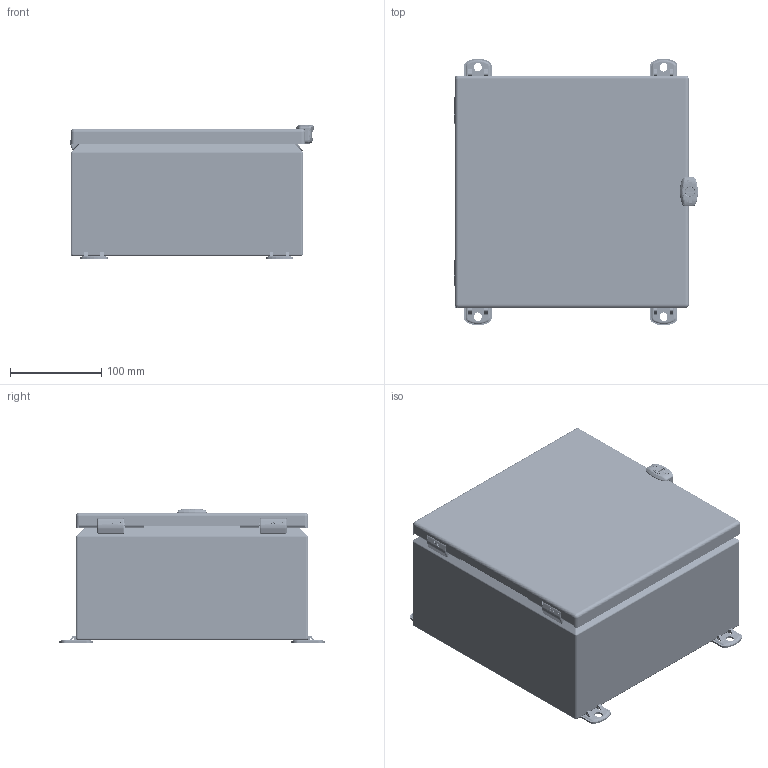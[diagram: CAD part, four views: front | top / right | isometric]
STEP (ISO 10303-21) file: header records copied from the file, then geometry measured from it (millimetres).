
FILE_DESCRIPTION(/* description */ ('5412ESSMCH 10" x 10" x 5" Assembly'),/* implementation_level */ '2;1');
FILE_NAME(/* name */ 'C:\Vault_Workspace\Inventor_Dwg\BoxCad\Result\5412ESSMCH101005\e-mail\3D\5412ESSMCH101005.stp',/* time_stamp */ '2022-04-26T01:44:26-04:00',/* author */ ('BoxCad'),/* organization */ (''),/* preprocessor_version */ 'ST-DEVELOPER v18.1',/* originating_system */ 'Autodesk Inventor 2020',/* authorisation */ '');
FILE_SCHEMA (('AUTOMOTIVE_DESIGN { 1 0 10303 214 3 1 1 }'));
Products named in the file (37): 5412ESSMCH101005; 5412ESSMCH101005B; 5412ESSMCH101005B-P; STK-Q-08500; STK-A-70469-1; STK-Q-70469-P; STK-Q-70469-S; STK-Q-70469-O; STK-Q-08100-1; 880SP1010G; 880SP1010G-P; 5412ESSMCH101005AK; STK-Q-71350; STK-Q-10251; STK-Q-10251-A; STK-Q-10251-B; STK-Q-03075; STK-Q-07260; STK-Q-03200; 5412ESSMCH101005C; 5412ESSMCH101005C-P; 5412ESSMCH101005G; STK-A-33038-1; STK-A-33038-2; STK-Q-33038-B; STK-Q-33038-S; STK-Q-33038-G; STANDOFF_SS_M6 x 10mm; STK-S-00100; STK-A-880SCQ3MS-1; STK-Q-79961-A; STK-Q-79961-B; STK-Q-70820; STK-Q-08100-3; STK-Q-08100-4; STK-Q-08100-A; STK-Q-08100-B
Assembly tree (62 placements, depth 4):
  5412ESSMCH101005
    5412ESSMCH101005B
      5412ESSMCH101005B-P
      STK-Q-08500  x4
      STANDOFF_SS_M6 x 10mm
      STK-A-70469-1
        STK-Q-70469-P
        STK-Q-70469-S
        STK-Q-70469-O
      STK-Q-08100-1
        STK-Q-08100-A
        STK-Q-08100-B
    880SP1010G
      880SP1010G-P
    5412ESSMCH101005AK
      STK-Q-71350  x4
      STK-Q-03075  x4
      STK-Q-10251  x4
        STK-Q-10251-A
        STK-Q-10251-B
      STK-Q-07260  x4
      STK-Q-03200  x4
    5412ESSMCH101005C
      5412ESSMCH101005C-P
      5412ESSMCH101005G
      STK-A-33038-1
        STK-Q-33038-B
        STK-Q-33038-S
        STK-Q-33038-G
      STK-A-33038-2
        STK-Q-33038-B
        STK-Q-33038-S
        STK-Q-33038-G
      STANDOFF_SS_M6 x 10mm
      STK-S-00100
      STK-A-880SCQ3MS-1
        STK-Q-79961-A
        STK-Q-79961-B
        STK-Q-70820
    STK-Q-08100-3
      STK-Q-08100-A
      STK-Q-08100-B
    STK-Q-08100-4
      STK-Q-08100-A
      STK-Q-08100-B
Bounding box: 266.67 x 292 x 146.3 mm (x, y, z)
Volume: 531661.5 mm3; surface area: 747204.3 mm2
Topology: 55 solids, 55 shells, 6877 faces, 17598 edges, 10784 vertices
Faces by surface type: plane 3283, cylinder 1477, bspline 1368, torus 415, cone 180, sphere 154
Full cylindrical faces by diameter (mm): 0.762 x6, 0.9 x6, 3 x2, 3.175 x2, 3.25 x2, 4.2 x3, 4.4 x9, 4.45 x2, 4.9 x23, 5 x4, 5.1 x34, 5.9 x84, 6 x6, 6.1 x6, 7.62 x3, 7.747 x4, 8.128 x4, 8.382 x1, 8.6 x1, 10 x6, 10.465 x1, 10.7 x1, 13 x4
Entity records: 132354 total; most frequent: CARTESIAN_POINT 47715, ORIENTED_EDGE 18382, DIRECTION 15654, EDGE_CURVE 9191, VERTEX_POINT 5725, AXIS2_PLACEMENT_3D 5283, LINE 5088, VECTOR 5088
